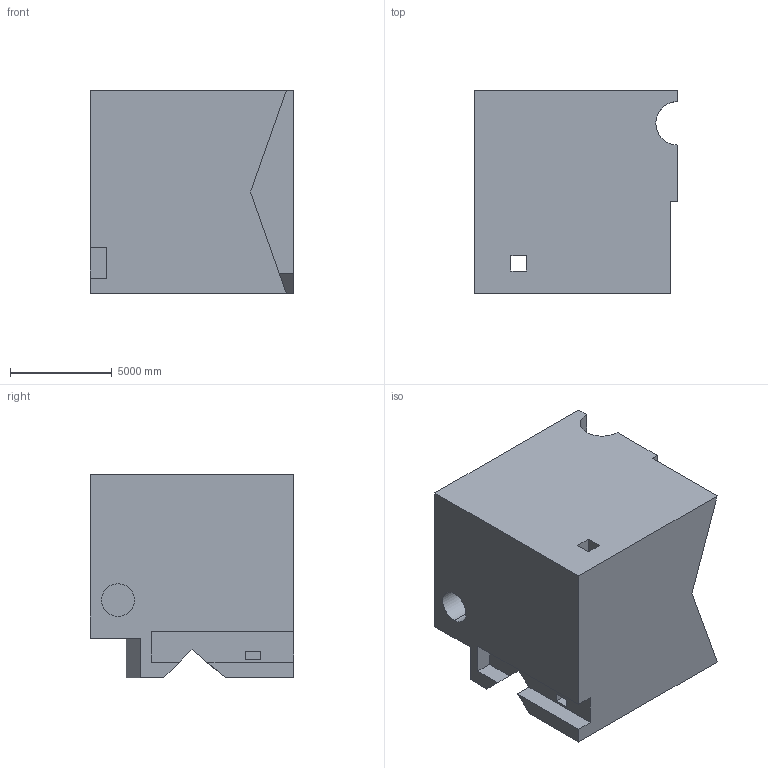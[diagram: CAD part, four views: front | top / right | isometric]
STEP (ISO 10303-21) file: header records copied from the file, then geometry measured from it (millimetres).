
FILE_DESCRIPTION (( 'STEP AP203' ), '1' );
FILE_NAME ('87.STEP', '2022-09-01T12:04:38', ( 'user' ), ( '' ), 'SwSTEP 2.0', 'SolidWorks 2021', '' );
FILE_SCHEMA (( 'CONFIG_CONTROL_DESIGN' ));
Length unit declared in the file: centimetre
Products named in the file (1): 87
Bounding box: 10000 x 10000 x 10000 mm (x, y, z)
Volume: 834808815826.9 mm3; surface area: 659971629.8 mm2
Topology: 1 solids, 1 shells, 40 faces, 114 edges, 76 vertices
Faces by surface type: plane 37, cylinder 3
Entity records: 1371 total; most frequent: CARTESIAN_POINT 231, ORIENTED_EDGE 228, DIRECTION 204, EDGE_CURVE 114, VECTOR 106, LINE 106, VERTEX_POINT 76, AXIS2_PLACEMENT_3D 49
